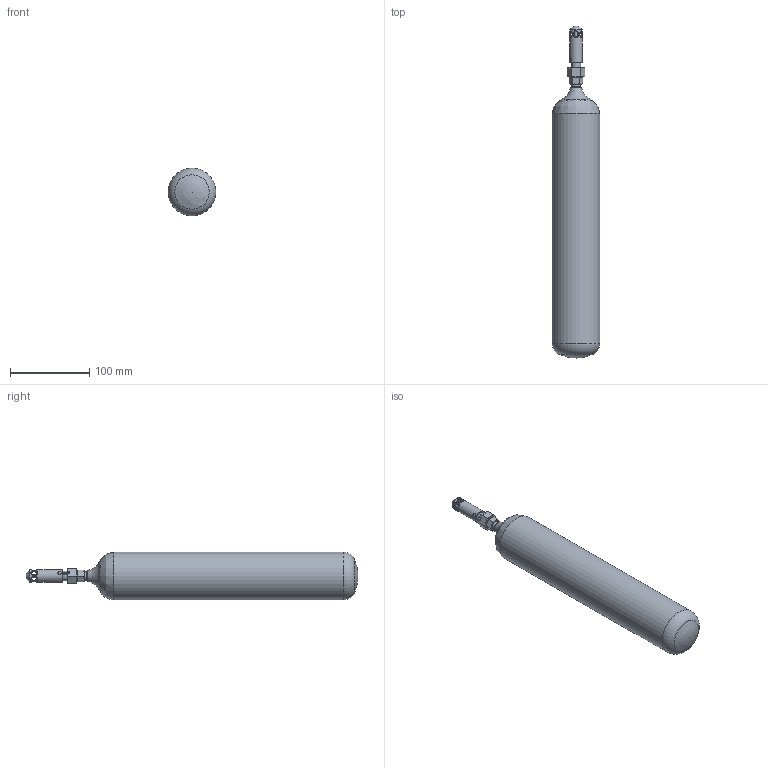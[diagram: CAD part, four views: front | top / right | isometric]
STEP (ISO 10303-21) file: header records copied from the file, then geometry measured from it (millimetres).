
FILE_DESCRIPTION(/* description */ (''),/* implementation_level */ '2;1');
FILE_NAME(/* name */ '40-056-20-68182-15 - AMFE - cylinder size 5.stp',/* time_stamp */ '2025-03-26T16:31:18+01:00',/* author */ ('ASc'),/* organization */ (''),/* preprocessor_version */ 'ST-DEVELOPER v19.2',/* originating_system */ 'Autodesk Inventor 2023',/* authorisation */ '');
FILE_SCHEMA (('AUTOMOTIVE_DESIGN { 1 0 10303 214 3 1 1 }'));
Length unit declared in the file: millimetre
Products named in the file (1): 40-056-20-68182-15_Vereinfachen_1
Bounding box: 60.3 x 419.11 x 60.3 mm (x, y, z)
Volume: 925282.2 mm3; surface area: 70150.9 mm2
Topology: 1 solids, 1 shells, 78 faces, 242 edges, 161 vertices
Faces by surface type: plane 29, cone 25, cylinder 17, torus 3, bspline 2, sphere 2
Full cylindrical faces by diameter (mm): 2.9 x1, 3 x1, 6.5 x6, 11 x1, 12 x1, 12.5 x1, 15 x1, 16 x1, 60.3 x1
Entity records: 3389 total; most frequent: CARTESIAN_POINT 1100, ORIENTED_EDGE 476, DIRECTION 419, EDGE_CURVE 238, AXIS2_PLACEMENT_3D 167, VERTEX_POINT 161, EDGE_LOOP 95, LINE 85
